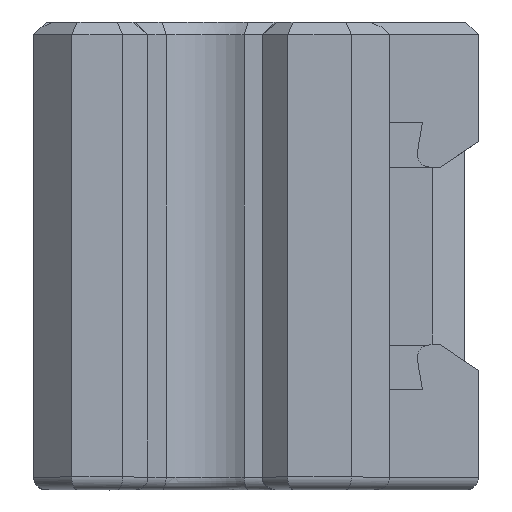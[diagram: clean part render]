
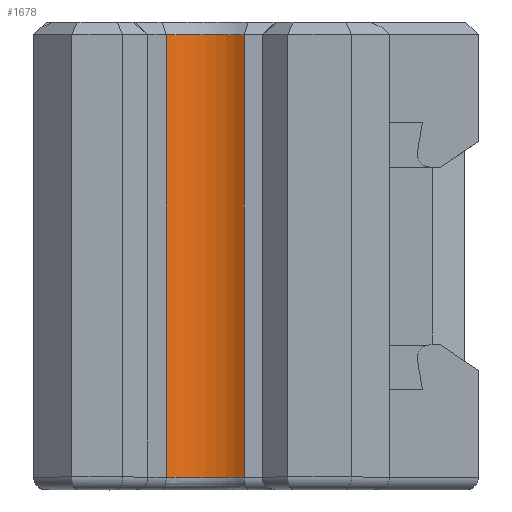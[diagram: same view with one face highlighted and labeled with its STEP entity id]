
A CAD part, top view. The second image highlights one B-rep face of the part: STEP entity #1678.
In plain terms, the highlighted cylindrical face has radius 2.625 mm (diameter 5.25 mm), a partial arc.
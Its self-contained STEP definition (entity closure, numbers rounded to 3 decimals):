
#48=CIRCLE('',#1800,2.625);
#49=CIRCLE('',#1806,2.625);
#92=CYLINDRICAL_SURFACE('',#1805,2.625);
#136=FACE_OUTER_BOUND('',#239,.T.);
#239=EDGE_LOOP('',(#1171,#1172,#1173,#1174));
#362=LINE('',#2557,#547);
#364=LINE('',#2561,#549);
#547=VECTOR('',#2020,10.);
#549=VECTOR('',#2024,10.);
#726=VERTEX_POINT('',#2504);
#733=VERTEX_POINT('',#2534);
#738=VERTEX_POINT('',#2556);
#739=VERTEX_POINT('',#2560);
#890=EDGE_CURVE('',#726,#733,#48,.T.);
#900=EDGE_CURVE('',#733,#738,#362,.T.);
#902=EDGE_CURVE('',#739,#726,#364,.T.);
#903=EDGE_CURVE('',#738,#739,#49,.T.);
#1171=ORIENTED_EDGE('',*,*,#890,.F.);
#1172=ORIENTED_EDGE('',*,*,#902,.F.);
#1173=ORIENTED_EDGE('',*,*,#903,.F.);
#1174=ORIENTED_EDGE('',*,*,#900,.F.);
#1678=ADVANCED_FACE('',(#136),#92,.F.);
#1800=AXIS2_PLACEMENT_3D('',#2535,#2002,#2003);
#1805=AXIS2_PLACEMENT_3D('',#2559,#2022,#2023);
#1806=AXIS2_PLACEMENT_3D('',#2562,#2025,#2026);
#2002=DIRECTION('center_axis',(0.,-1.,0.));
#2003=DIRECTION('ref_axis',(-1.,0.,0.));
#2020=DIRECTION('',(0.,-1.,0.));
#2022=DIRECTION('center_axis',(0.,-1.,0.));
#2023=DIRECTION('ref_axis',(-1.,0.,0.));
#2024=DIRECTION('',(0.,1.,0.));
#2025=DIRECTION('center_axis',(0.,1.,0.));
#2026=DIRECTION('ref_axis',(0.,0.,-1.));
#2504=CARTESIAN_POINT('',(-146.965,8.74,3.));
#2534=CARTESIAN_POINT('',(-143.887,8.74,3.));
#2535=CARTESIAN_POINT('Origin',(-145.426,8.74,5.127));
#2556=CARTESIAN_POINT('',(-143.887,-8.66,3.));
#2557=CARTESIAN_POINT('',(-143.887,9.24,3.));
#2559=CARTESIAN_POINT('Origin',(-145.426,9.24,5.127));
#2560=CARTESIAN_POINT('',(-146.965,-8.66,3.));
#2561=CARTESIAN_POINT('',(-146.965,9.24,3.));
#2562=CARTESIAN_POINT('Origin',(-145.426,-8.66,5.127));
